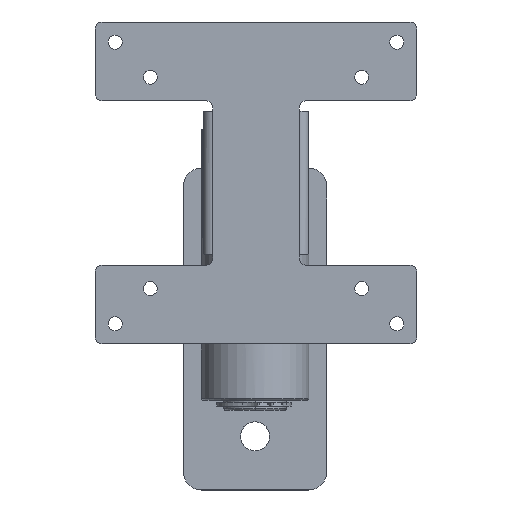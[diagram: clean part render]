
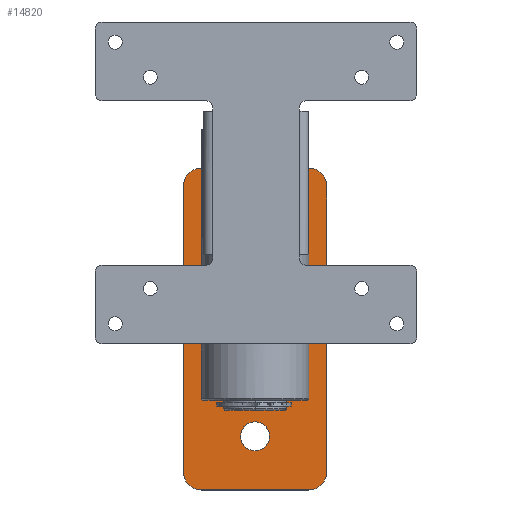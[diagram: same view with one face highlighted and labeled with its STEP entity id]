
A CAD part, top view. The second image highlights one B-rep face of the part: STEP entity #14820.
In plain terms, the highlighted planar face has unit normal (0, 0, 1).
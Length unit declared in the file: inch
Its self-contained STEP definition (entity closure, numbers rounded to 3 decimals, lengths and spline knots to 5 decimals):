
#50 = PLANE ( 'NONE',  #11288 ) ;
#61 = ORIENTED_EDGE ( 'NONE', *, *, #19636, .F. ) ;
#98 = DIRECTION ( 'NONE',  ( 1., 0., 0. ) ) ;
#185 = AXIS2_PLACEMENT_3D ( 'NONE', #18427, #10545, #4569 ) ;
#306 = DIRECTION ( 'NONE',  ( -1., 0., 0. ) ) ;
#434 = CARTESIAN_POINT ( 'NONE',  ( -0.75, -2., 0.25 ) ) ;
#507 = CARTESIAN_POINT ( 'NONE',  ( -0.75, -2.25, 0.25 ) ) ;
#687 = ORIENTED_EDGE ( 'NONE', *, *, #2056, .F. ) ;
#775 = VERTEX_POINT ( 'NONE', #1871 ) ;
#1426 = CARTESIAN_POINT ( 'NONE',  ( -0.75, 2.25, 0.25 ) ) ;
#1544 = VERTEX_POINT ( 'NONE', #15753 ) ;
#1621 = VERTEX_POINT ( 'NONE', #9952 ) ;
#1871 = CARTESIAN_POINT ( 'NONE',  ( -0.203, 1.5, 0.25 ) ) ;
#2009 = DIRECTION ( 'NONE',  ( 1., 0., 0. ) ) ;
#2056 = EDGE_CURVE ( 'NONE', #775, #1621, #4596, .T. ) ;
#2322 = LINE ( 'NONE', #15975, #17694 ) ;
#2343 = AXIS2_PLACEMENT_3D ( 'NONE', #7327, #19629, #7235 ) ;
#2527 = ORIENTED_EDGE ( 'NONE', *, *, #7808, .T. ) ;
#2683 = ORIENTED_EDGE ( 'NONE', *, *, #15245, .T. ) ;
#2906 = CARTESIAN_POINT ( 'NONE',  ( 0., 0., 0.25 ) ) ;
#3152 = LINE ( 'NONE', #6041, #16031 ) ;
#3262 = AXIS2_PLACEMENT_3D ( 'NONE', #6469, #10681, #3286 ) ;
#3286 = DIRECTION ( 'NONE',  ( -1., 0., 0. ) ) ;
#3394 = DIRECTION ( 'NONE',  ( -1., 0., 0. ) ) ;
#3915 = DIRECTION ( 'NONE',  ( 0., 1., 0. ) ) ;
#4016 = CARTESIAN_POINT ( 'NONE',  ( -1., 2.25, 0.25 ) ) ;
#4110 = EDGE_CURVE ( 'NONE', #13907, #4413, #17603, .T. ) ;
#4201 = FACE_BOUND ( 'NONE', #17000, .T. ) ;
#4413 = VERTEX_POINT ( 'NONE', #7453 ) ;
#4569 = DIRECTION ( 'NONE',  ( 1., 0., 0. ) ) ;
#4596 = CIRCLE ( 'NONE', #185, 0.203 ) ;
#4604 = FACE_BOUND ( 'NONE', #10895, .T. ) ;
#4764 = CARTESIAN_POINT ( 'NONE',  ( 1., 2., 0.25 ) ) ;
#4767 = CARTESIAN_POINT ( 'NONE',  ( 0.75, -2.25, 0.25 ) ) ;
#4888 = VECTOR ( 'NONE', #16184, 39.37008 ) ;
#4919 = AXIS2_PLACEMENT_3D ( 'NONE', #10362, #10549, #8754 ) ;
#5116 = DIRECTION ( 'NONE',  ( 1., 0., 0. ) ) ;
#5141 = ORIENTED_EDGE ( 'NONE', *, *, #9659, .T. ) ;
#5570 = ORIENTED_EDGE ( 'NONE', *, *, #5910, .T. ) ;
#5833 = VERTEX_POINT ( 'NONE', #507 ) ;
#5910 = EDGE_CURVE ( 'NONE', #14786, #16889, #11242, .T. ) ;
#5995 = VERTEX_POINT ( 'NONE', #8313 ) ;
#6041 = CARTESIAN_POINT ( 'NONE',  ( 1., -2.25, 0.25 ) ) ;
#6158 = CIRCLE ( 'NONE', #2343, 0.203 ) ;
#6223 = ORIENTED_EDGE ( 'NONE', *, *, #4110, .T. ) ;
#6227 = VECTOR ( 'NONE', #10409, 39.37008 ) ;
#6469 = CARTESIAN_POINT ( 'NONE',  ( 0.75, 2., 0.25 ) ) ;
#6600 = VERTEX_POINT ( 'NONE', #15085 ) ;
#6676 = CARTESIAN_POINT ( 'NONE',  ( 0., -1.5, 0.25 ) ) ;
#7147 = CIRCLE ( 'NONE', #4919, 0.25 ) ;
#7235 = DIRECTION ( 'NONE',  ( 1., 0., 0. ) ) ;
#7327 = CARTESIAN_POINT ( 'NONE',  ( 0., -1.5, 0.25 ) ) ;
#7453 = CARTESIAN_POINT ( 'NONE',  ( 0.75, 2.25, 0.25 ) ) ;
#7696 = CARTESIAN_POINT ( 'NONE',  ( 1., 2.25, 0.25 ) ) ;
#7808 = EDGE_CURVE ( 'NONE', #14334, #5833, #8416, .T. ) ;
#8001 = ORIENTED_EDGE ( 'NONE', *, *, #15853, .T. ) ;
#8313 = CARTESIAN_POINT ( 'NONE',  ( 1., -2., 0.25 ) ) ;
#8416 = CIRCLE ( 'NONE', #12257, 0.25 ) ;
#8516 = CARTESIAN_POINT ( 'NONE',  ( -1., -2., 0.25 ) ) ;
#8754 = DIRECTION ( 'NONE',  ( -1., 0., 0. ) ) ;
#9121 = ORIENTED_EDGE ( 'NONE', *, *, #19147, .T. ) ;
#9659 = EDGE_CURVE ( 'NONE', #4413, #14786, #15284, .T. ) ;
#9731 = AXIS2_PLACEMENT_3D ( 'NONE', #12691, #18772, #5116 ) ;
#9952 = CARTESIAN_POINT ( 'NONE',  ( 0.203, 1.5, 0.25 ) ) ;
#9958 = EDGE_CURVE ( 'NONE', #5995, #13907, #2322, .T. ) ;
#10023 = EDGE_CURVE ( 'NONE', #1621, #775, #11653, .T. ) ;
#10301 = AXIS2_PLACEMENT_3D ( 'NONE', #6676, #17168, #2009 ) ;
#10362 = CARTESIAN_POINT ( 'NONE',  ( 0.75, -2., 0.25 ) ) ;
#10409 = DIRECTION ( 'NONE',  ( -1., 0., 0. ) ) ;
#10545 = DIRECTION ( 'NONE',  ( 0., 0., 1. ) ) ;
#10549 = DIRECTION ( 'NONE',  ( 0., 0., 1. ) ) ;
#10681 = DIRECTION ( 'NONE',  ( 0., 0., 1. ) ) ;
#10895 = EDGE_LOOP ( 'NONE', ( #61, #19176 ) ) ;
#11153 = EDGE_LOOP ( 'NONE', ( #9121, #2527, #8001, #2683, #11303, #6223, #5141, #5570 ) ) ;
#11242 = CIRCLE ( 'NONE', #16958, 0.25 ) ;
#11288 = AXIS2_PLACEMENT_3D ( 'NONE', #2906, #16477, #14868 ) ;
#11303 = ORIENTED_EDGE ( 'NONE', *, *, #9958, .T. ) ;
#11653 = CIRCLE ( 'NONE', #9731, 0.203 ) ;
#12257 = AXIS2_PLACEMENT_3D ( 'NONE', #434, #18450, #3394 ) ;
#12342 = DIRECTION ( 'NONE',  ( 0., 0., 1. ) ) ;
#12691 = CARTESIAN_POINT ( 'NONE',  ( 0., 1.5, 0.25 ) ) ;
#13845 = CARTESIAN_POINT ( 'NONE',  ( -0.75, 2., 0.25 ) ) ;
#13907 = VERTEX_POINT ( 'NONE', #4764 ) ;
#14212 = EDGE_CURVE ( 'NONE', #6600, #1544, #6158, .T. ) ;
#14334 = VERTEX_POINT ( 'NONE', #8516 ) ;
#14786 = VERTEX_POINT ( 'NONE', #1426 ) ;
#14820 = ADVANCED_FACE ( 'NONE', ( #4201, #4604, #18160 ), #50, .F. ) ;
#14868 = DIRECTION ( 'NONE',  ( -1., 0., 0. ) ) ;
#15085 = CARTESIAN_POINT ( 'NONE',  ( -0.203, -1.5, 0.25 ) ) ;
#15245 = EDGE_CURVE ( 'NONE', #15484, #5995, #7147, .T. ) ;
#15284 = LINE ( 'NONE', #7696, #6227 ) ;
#15484 = VERTEX_POINT ( 'NONE', #4767 ) ;
#15753 = CARTESIAN_POINT ( 'NONE',  ( 0.203, -1.5, 0.25 ) ) ;
#15853 = EDGE_CURVE ( 'NONE', #5833, #15484, #3152, .T. ) ;
#15975 = CARTESIAN_POINT ( 'NONE',  ( 1., 2.25, 0.25 ) ) ;
#16031 = VECTOR ( 'NONE', #98, 39.37008 ) ;
#16184 = DIRECTION ( 'NONE',  ( 0., -1., 0. ) ) ;
#16477 = DIRECTION ( 'NONE',  ( 0., 0., -1. ) ) ;
#16889 = VERTEX_POINT ( 'NONE', #17713 ) ;
#16958 = AXIS2_PLACEMENT_3D ( 'NONE', #13845, #12342, #306 ) ;
#17000 = EDGE_LOOP ( 'NONE', ( #17012, #687 ) ) ;
#17012 = ORIENTED_EDGE ( 'NONE', *, *, #10023, .F. ) ;
#17168 = DIRECTION ( 'NONE',  ( 0., 0., 1. ) ) ;
#17603 = CIRCLE ( 'NONE', #3262, 0.25 ) ;
#17686 = LINE ( 'NONE', #4016, #4888 ) ;
#17694 = VECTOR ( 'NONE', #3915, 39.37008 ) ;
#17713 = CARTESIAN_POINT ( 'NONE',  ( -1., 2., 0.25 ) ) ;
#18160 = FACE_OUTER_BOUND ( 'NONE', #11153, .T. ) ;
#18427 = CARTESIAN_POINT ( 'NONE',  ( 0., 1.5, 0.25 ) ) ;
#18450 = DIRECTION ( 'NONE',  ( 0., 0., 1. ) ) ;
#18772 = DIRECTION ( 'NONE',  ( 0., 0., 1. ) ) ;
#18915 = CIRCLE ( 'NONE', #10301, 0.203 ) ;
#19147 = EDGE_CURVE ( 'NONE', #16889, #14334, #17686, .T. ) ;
#19176 = ORIENTED_EDGE ( 'NONE', *, *, #14212, .F. ) ;
#19629 = DIRECTION ( 'NONE',  ( 0., 0., 1. ) ) ;
#19636 = EDGE_CURVE ( 'NONE', #1544, #6600, #18915, .T. ) ;
